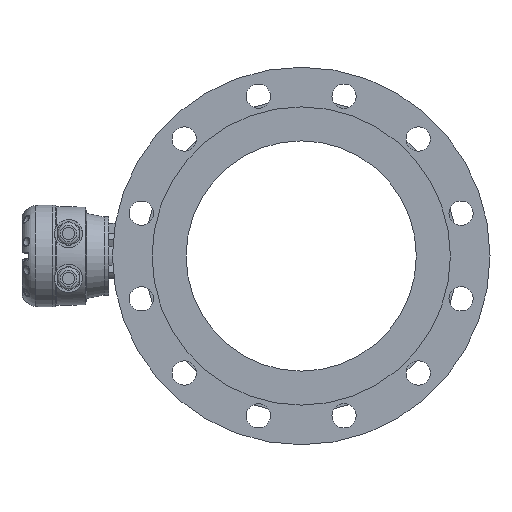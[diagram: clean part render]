
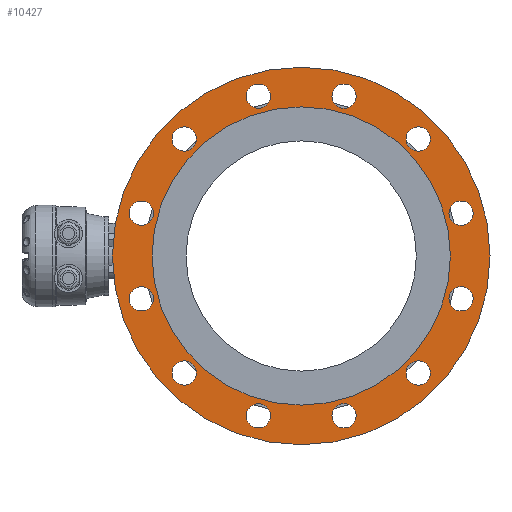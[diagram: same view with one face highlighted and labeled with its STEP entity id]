
A CAD part, left-side view. The second image highlights one B-rep face of the part: STEP entity #10427.
In plain terms, the highlighted planar face has unit normal (-1, 0, 0).
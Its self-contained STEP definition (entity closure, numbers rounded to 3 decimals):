
#735 = EDGE_LOOP ( 'NONE', ( #4593 ) ) ;
#821 = EDGE_LOOP ( 'NONE', ( #4594 ) ) ;
#822 = EDGE_LOOP ( 'NONE', ( #4595 ) ) ;
#825 = EDGE_LOOP ( 'NONE', ( #4599 ) ) ;
#827 = EDGE_LOOP ( 'NONE', ( #4600 ) ) ;
#829 = EDGE_LOOP ( 'NONE', ( #4601 ) ) ;
#845 = EDGE_LOOP ( 'NONE', ( #4596 ) ) ;
#847 = EDGE_LOOP ( 'NONE', ( #4591 ) ) ;
#848 = EDGE_LOOP ( 'NONE', ( #4597 ) ) ;
#850 = EDGE_LOOP ( 'NONE', ( #4592 ) ) ;
#851 = EDGE_LOOP ( 'NONE', ( #4598 ) ) ;
#921 = EDGE_LOOP ( 'NONE', ( #4602 ) ) ;
#936 = EDGE_LOOP ( 'NONE', ( #4603 ) ) ;
#1039 = EDGE_LOOP ( 'NONE', ( #4590 ) ) ;
#1877 = EDGE_CURVE ( 'NONE', #10068, #10068, #5492, .T. ) ;
#1881 = EDGE_CURVE ( 'NONE', #10072, #10072, #5496, .T. ) ;
#2085 = EDGE_CURVE ( 'NONE', #10102, #10102, #5652, .T. ) ;
#2111 = EDGE_CURVE ( 'NONE', #10110, #10110, #13088, .T. ) ;
#2114 = EDGE_CURVE ( 'NONE', #10112, #10112, #13092, .T. ) ;
#2119 = EDGE_CURVE ( 'NONE', #10116, #10116, #13095, .T. ) ;
#2124 = EDGE_CURVE ( 'NONE', #10120, #10120, #13097, .T. ) ;
#2134 = EDGE_CURVE ( 'NONE', #10130, #10130, #13108, .T. ) ;
#2304 = EDGE_CURVE ( 'NONE', #10190, #10190, #13259, .T. ) ;
#2330 = EDGE_CURVE ( 'NONE', #10198, #10198, #13275, .T. ) ;
#2340 = EDGE_CURVE ( 'NONE', #10202, #10202, #13279, .T. ) ;
#2481 = EDGE_CURVE ( 'NONE', #10283, #10283, #13362, .T. ) ;
#2536 = EDGE_CURVE ( 'NONE', #10289, #10289, #13388, .T. ) ;
#2546 = EDGE_CURVE ( 'NONE', #10293, #10293, #13398, .T. ) ;
#4590 = ORIENTED_EDGE ( 'NONE', *, *, #2111, .F. ) ;
#4591 = ORIENTED_EDGE ( 'NONE', *, *, #2536, .F. ) ;
#4592 = ORIENTED_EDGE ( 'NONE', *, *, #2304, .F. ) ;
#4593 = ORIENTED_EDGE ( 'NONE', *, *, #2114, .F. ) ;
#4594 = ORIENTED_EDGE ( 'NONE', *, *, #2481, .F. ) ;
#4595 = ORIENTED_EDGE ( 'NONE', *, *, #2330, .F. ) ;
#4596 = ORIENTED_EDGE ( 'NONE', *, *, #2119, .F. ) ;
#4597 = ORIENTED_EDGE ( 'NONE', *, *, #2134, .F. ) ;
#4598 = ORIENTED_EDGE ( 'NONE', *, *, #2546, .F. ) ;
#4599 = ORIENTED_EDGE ( 'NONE', *, *, #2340, .F. ) ;
#4600 = ORIENTED_EDGE ( 'NONE', *, *, #1881, .F. ) ;
#4601 = ORIENTED_EDGE ( 'NONE', *, *, #2124, .F. ) ;
#4602 = ORIENTED_EDGE ( 'NONE', *, *, #2085, .F. ) ;
#4603 = ORIENTED_EDGE ( 'NONE', *, *, #1877, .T. ) ;
#5492 = CIRCLE ( 'NONE', #11570, 160. ) ;
#5496 = CIRCLE ( 'NONE', #11578, 13. ) ;
#5652 = CIRCLE ( 'NONE', #11632, 202.5 ) ;
#5915 = CARTESIAN_POINT ( 'NONE',  ( -189.805, -154.076, -181.995 ) ) ;
#5916 = DIRECTION ( 'NONE',  ( -1., 0., 0. ) ) ;
#5917 = DIRECTION ( 'NONE',  ( 0., 0., 1. ) ) ;
#6141 = CARTESIAN_POINT ( 'NONE',  ( -189.805, -325.528, 114.969 ) ) ;
#6142 = DIRECTION ( 'NONE',  ( -1., 0., 0. ) ) ;
#6143 = DIRECTION ( 'NONE',  ( 0., 0., 1. ) ) ;
#6197 = CARTESIAN_POINT ( 'NONE',  ( -189.805, -74.505, 114.969 ) ) ;
#6198 = DIRECTION ( 'NONE',  ( -1., 0., 0. ) ) ;
#6199 = DIRECTION ( 'NONE',  ( 0., 0., 1. ) ) ;
#6206 = CARTESIAN_POINT ( 'NONE',  ( -189.805, -245.957, -181.995 ) ) ;
#6215 = DIRECTION ( 'NONE',  ( -1., 0., 0. ) ) ;
#6216 = DIRECTION ( 'NONE',  ( 0., 0., 1. ) ) ;
#6544 = PLANE ( 'NONE',  #11986 ) ;
#6548 = CARTESIAN_POINT ( 'NONE',  ( -189.805, -200.017, -10.543 ) ) ;
#6549 = DIRECTION ( 'NONE',  ( -1., 0., 0. ) ) ;
#6550 = DIRECTION ( 'NONE',  ( 0., 0., -1. ) ) ;
#10068 = VERTEX_POINT ( 'NONE', #10069 ) ;
#10069 = CARTESIAN_POINT ( 'NONE',  ( -189.805, -200.017, -170.543 ) ) ;
#10072 = VERTEX_POINT ( 'NONE', #10073 ) ;
#10073 = CARTESIAN_POINT ( 'NONE',  ( -189.805, -74.505, -123.054 ) ) ;
#10102 = VERTEX_POINT ( 'NONE', #10103 ) ;
#10103 = CARTESIAN_POINT ( 'NONE',  ( -189.805, -200.017, -213.043 ) ) ;
#10110 = VERTEX_POINT ( 'NONE', #10111 ) ;
#10111 = CARTESIAN_POINT ( 'NONE',  ( -189.805, -28.565, 48.398 ) ) ;
#10112 = VERTEX_POINT ( 'NONE', #10113 ) ;
#10113 = CARTESIAN_POINT ( 'NONE',  ( -189.805, -245.957, 173.909 ) ) ;
#10116 = VERTEX_POINT ( 'NONE', #10117 ) ;
#10117 = CARTESIAN_POINT ( 'NONE',  ( -189.805, -371.469, -43.483 ) ) ;
#10120 = VERTEX_POINT ( 'NONE', #10121 ) ;
#10121 = CARTESIAN_POINT ( 'NONE',  ( -189.805, -28.565, -43.483 ) ) ;
#10130 = VERTEX_POINT ( 'NONE', #10131 ) ;
#10131 = CARTESIAN_POINT ( 'NONE',  ( -189.805, -325.528, -123.054 ) ) ;
#10190 = VERTEX_POINT ( 'NONE', #10191 ) ;
#10191 = CARTESIAN_POINT ( 'NONE',  ( -189.805, -154.076, 173.909 ) ) ;
#10198 = VERTEX_POINT ( 'NONE', #10199 ) ;
#10199 = CARTESIAN_POINT ( 'NONE',  ( -189.805, -371.469, 48.398 ) ) ;
#10202 = VERTEX_POINT ( 'NONE', #10203 ) ;
#10203 = CARTESIAN_POINT ( 'NONE',  ( -189.805, -154.076, -168.995 ) ) ;
#10283 = VERTEX_POINT ( 'NONE', #10284 ) ;
#10284 = CARTESIAN_POINT ( 'NONE',  ( -189.805, -325.528, 127.969 ) ) ;
#10289 = VERTEX_POINT ( 'NONE', #10290 ) ;
#10290 = CARTESIAN_POINT ( 'NONE',  ( -189.805, -74.505, 127.969 ) ) ;
#10293 = VERTEX_POINT ( 'NONE', #10294 ) ;
#10294 = CARTESIAN_POINT ( 'NONE',  ( -189.805, -245.957, -168.995 ) ) ;
#10427 = ADVANCED_FACE ( 'NONE', ( #13573, #13579, #13581, #13583, #13577, #13572, #13580, #13582, #13584, #13578, #13585, #13586, #13587, #13588 ), #6544, .T. ) ;
#11477 = CARTESIAN_POINT ( 'NONE',  ( -189.805, -200.017, -10.543 ) ) ;
#11480 = DIRECTION ( 'NONE',  ( 1., 0., 0. ) ) ;
#11481 = DIRECTION ( 'NONE',  ( 0., 0., -1. ) ) ;
#11489 = CARTESIAN_POINT ( 'NONE',  ( -189.805, -74.505, -136.054 ) ) ;
#11502 = DIRECTION ( 'NONE',  ( -1., 0., 0. ) ) ;
#11503 = DIRECTION ( 'NONE',  ( 0., 0., 1. ) ) ;
#11570 = AXIS2_PLACEMENT_3D ( 'NONE', #11477, #11480, #11481 ) ;
#11578 = AXIS2_PLACEMENT_3D ( 'NONE', #11489, #11502, #11503 ) ;
#11632 = AXIS2_PLACEMENT_3D ( 'NONE', #12115, #12129, #12130 ) ;
#11641 = AXIS2_PLACEMENT_3D ( 'NONE', #12210, #12213, #12214 ) ;
#11645 = AXIS2_PLACEMENT_3D ( 'NONE', #12220, #12228, #12230 ) ;
#11652 = AXIS2_PLACEMENT_3D ( 'NONE', #12245, #12255, #12256 ) ;
#11657 = AXIS2_PLACEMENT_3D ( 'NONE', #12263, #12278, #12280 ) ;
#11669 = AXIS2_PLACEMENT_3D ( 'NONE', #12309, #12319, #12321 ) ;
#11748 = AXIS2_PLACEMENT_3D ( 'NONE', #12911, #12912, #12913 ) ;
#11771 = AXIS2_PLACEMENT_3D ( 'NONE', #12950, #12959, #12960 ) ;
#11775 = AXIS2_PLACEMENT_3D ( 'NONE', #5915, #5916, #5917 ) ;
#11829 = AXIS2_PLACEMENT_3D ( 'NONE', #6141, #6142, #6143 ) ;
#11833 = AXIS2_PLACEMENT_3D ( 'NONE', #6197, #6198, #6199 ) ;
#11849 = AXIS2_PLACEMENT_3D ( 'NONE', #6206, #6215, #6216 ) ;
#11986 = AXIS2_PLACEMENT_3D ( 'NONE', #6548, #6549, #6550 ) ;
#12115 = CARTESIAN_POINT ( 'NONE',  ( -189.805, -200.017, -10.543 ) ) ;
#12129 = DIRECTION ( 'NONE',  ( 1., 0., 0. ) ) ;
#12130 = DIRECTION ( 'NONE',  ( 0., 0., -1. ) ) ;
#12210 = CARTESIAN_POINT ( 'NONE',  ( -189.805, -28.565, 35.398 ) ) ;
#12213 = DIRECTION ( 'NONE',  ( -1., 0., 0. ) ) ;
#12214 = DIRECTION ( 'NONE',  ( 0., 0., 1. ) ) ;
#12220 = CARTESIAN_POINT ( 'NONE',  ( -189.805, -245.957, 160.909 ) ) ;
#12228 = DIRECTION ( 'NONE',  ( -1., 0., 0. ) ) ;
#12230 = DIRECTION ( 'NONE',  ( 0., 0., 1. ) ) ;
#12245 = CARTESIAN_POINT ( 'NONE',  ( -189.805, -371.469, -56.483 ) ) ;
#12255 = DIRECTION ( 'NONE',  ( -1., 0., 0. ) ) ;
#12256 = DIRECTION ( 'NONE',  ( 0., 0., 1. ) ) ;
#12263 = CARTESIAN_POINT ( 'NONE',  ( -189.805, -28.565, -56.483 ) ) ;
#12278 = DIRECTION ( 'NONE',  ( -1., 0., 0. ) ) ;
#12280 = DIRECTION ( 'NONE',  ( 0., 0., 1. ) ) ;
#12309 = CARTESIAN_POINT ( 'NONE',  ( -189.805, -325.528, -136.054 ) ) ;
#12319 = DIRECTION ( 'NONE',  ( -1., 0., 0. ) ) ;
#12321 = DIRECTION ( 'NONE',  ( 0., 0., 1. ) ) ;
#12911 = CARTESIAN_POINT ( 'NONE',  ( -189.805, -154.076, 160.909 ) ) ;
#12912 = DIRECTION ( 'NONE',  ( -1., 0., 0. ) ) ;
#12913 = DIRECTION ( 'NONE',  ( 0., 0., 1. ) ) ;
#12950 = CARTESIAN_POINT ( 'NONE',  ( -189.805, -371.469, 35.398 ) ) ;
#12959 = DIRECTION ( 'NONE',  ( -1., 0., 0. ) ) ;
#12960 = DIRECTION ( 'NONE',  ( 0., 0., 1. ) ) ;
#13088 = CIRCLE ( 'NONE', #11641, 13. ) ;
#13092 = CIRCLE ( 'NONE', #11645, 13. ) ;
#13095 = CIRCLE ( 'NONE', #11652, 13. ) ;
#13097 = CIRCLE ( 'NONE', #11657, 13. ) ;
#13108 = CIRCLE ( 'NONE', #11669, 13. ) ;
#13259 = CIRCLE ( 'NONE', #11748, 13. ) ;
#13275 = CIRCLE ( 'NONE', #11771, 13. ) ;
#13279 = CIRCLE ( 'NONE', #11775, 13. ) ;
#13362 = CIRCLE ( 'NONE', #11829, 13. ) ;
#13388 = CIRCLE ( 'NONE', #11833, 13. ) ;
#13398 = CIRCLE ( 'NONE', #11849, 13. ) ;
#13572 = FACE_BOUND ( 'NONE', #822, .T. ) ;
#13573 = FACE_BOUND ( 'NONE', #1039, .T. ) ;
#13577 = FACE_BOUND ( 'NONE', #821, .T. ) ;
#13578 = FACE_BOUND ( 'NONE', #825, .T. ) ;
#13579 = FACE_BOUND ( 'NONE', #847, .T. ) ;
#13580 = FACE_BOUND ( 'NONE', #845, .T. ) ;
#13581 = FACE_BOUND ( 'NONE', #850, .T. ) ;
#13582 = FACE_BOUND ( 'NONE', #848, .T. ) ;
#13583 = FACE_BOUND ( 'NONE', #735, .T. ) ;
#13584 = FACE_BOUND ( 'NONE', #851, .T. ) ;
#13585 = FACE_BOUND ( 'NONE', #827, .T. ) ;
#13586 = FACE_BOUND ( 'NONE', #829, .T. ) ;
#13587 = FACE_OUTER_BOUND ( 'NONE', #921, .T. ) ;
#13588 = FACE_BOUND ( 'NONE', #936, .T. ) ;
